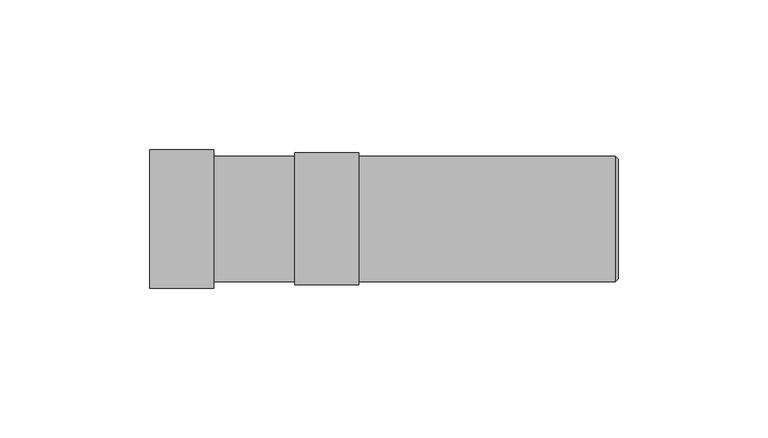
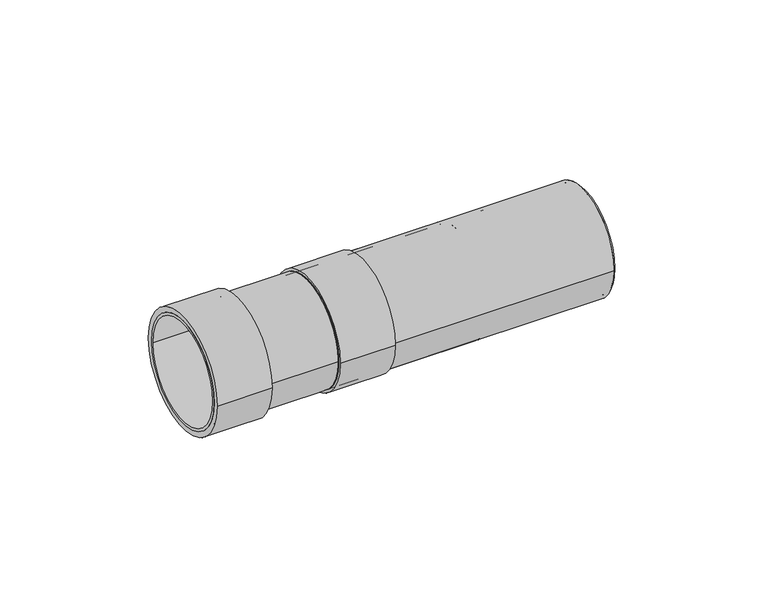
"""IFC4 building model written with IfcOpenShell, lengths in millimetres: pipe fitting geometry, Superdrain HTL-Long socket : Superdrain HTL-Long socket."""

import ifcopenshell
import ifcopenshell.guid

model = None  # the IFC model being written
_history = None  # IfcOwnerHistory: only IFC2X3 demands one
_inside = {}  # id of a spatial element -> (the spatial element, [elements in it])
_under = {}  # id of a project, library or spatial element -> (it, [spatial elements below it])
_declared = {}  # id of a project -> (the project, [libraries it declares])
_typed = {}  # id of a type object -> (the type object, [elements of that type])
_made_of = {}  # id of a material, layer set ... -> (it, [elements and type objects made of it])


def new_model(schema):
    """Start an empty IFC model of exactly this schema.

    Asked for "IFC4X3", IfcOpenShell would pick the latest addendum, in which some entities
    have other attributes; the version numbers below select the first issue.
    IFC2X3 requires an IfcOwnerHistory on every rooted entity: one is made here for all.
    """
    global model, _history
    if schema == "IFC4X3":
        model = ifcopenshell.file(schema_version=(4, 3, 0, 0))
    else:
        model = ifcopenshell.file(schema=schema)
    _inside.clear()
    _under.clear()
    _declared.clear()
    _typed.clear()
    _made_of.clear()
    _history = None
    if model.schema == "IFC2X3":
        org = make("IfcOrganization", Name="unknown")
        user = make(
            "IfcPersonAndOrganization",
            ThePerson=make("IfcPerson", FamilyName="unknown"),
            TheOrganization=org,
        )
        app = make(
            "IfcApplication",
            ApplicationDeveloper=org,
            Version="unknown",
            ApplicationFullName="unknown",
            ApplicationIdentifier="unknown",
        )
        _history = make(
            "IfcOwnerHistory",
            OwningUser=user,
            OwningApplication=app,
            ChangeAction="ADDED",
            CreationDate=0,
        )
    return model


def make(cls, **values):
    """One entity of the class cls with the attributes given. An attribute that is None is left unset."""
    return model.create_entity(
        cls, **{name: value for name, value in values.items() if value is not None}
    )


def rooted(cls, **values):
    """An entity with a GlobalId (a new one), such as an element, a storey or a relation."""
    return make(cls, GlobalId=ifcopenshell.guid.new(), OwnerHistory=_history, **values)


def si_unit(unit_type, name, prefix=None):
    """IfcSIUnit, for example si_unit("LENGTHUNIT", "METRE", prefix="MILLI")."""
    return make("IfcSIUnit", UnitType=unit_type, Prefix=prefix, Name=name)


def assignment(units):
    """IfcUnitAssignment: the units of a project."""
    return None if units is None else make("IfcUnitAssignment", Units=units)


def point(xyz):
    """IfcCartesianPoint."""
    return None if xyz is None else make("IfcCartesianPoint", Coordinates=xyz)


def direction(xyz):
    """IfcDirection."""
    return None if xyz is None else make("IfcDirection", DirectionRatios=xyz)


def frame(location, z_axis=None, x_axis=None):
    """IfcAxis2Placement3D, a coordinate frame: its origin and axes. An axis left out is left unset."""
    return make(
        "IfcAxis2Placement3D",
        Location=point(location),
        Axis=direction(z_axis),
        RefDirection=direction(x_axis),
    )


def frame_2d(location, x_axis=None):
    """IfcAxis2Placement2D, a coordinate frame in the plane: its origin and x axis."""
    return make(
        "IfcAxis2Placement2D", Location=point(location), RefDirection=direction(x_axis)
    )


def origin():
    """The frame at (0, 0, 0) with its axes left unset."""
    return frame((0.0, 0.0, 0.0))


def origin_2d():
    """The frame at (0, 0) in the plane with its x axis left unset."""
    return frame_2d((0.0, 0.0))


def place(relative_to, where):
    """IfcLocalPlacement: puts the frame where relative to a parent placement (None: the world)."""
    return make(
        "IfcLocalPlacement", PlacementRelTo=relative_to, RelativePlacement=where
    )


def context(
    kind, dimensions, precision=None, world=None, true_north=None, identifier=None
):
    """IfcGeometricRepresentationContext, for example the 3D "Model" context."""
    return make(
        "IfcGeometricRepresentationContext",
        ContextIdentifier=identifier,
        ContextType=kind,
        CoordinateSpaceDimension=dimensions,
        Precision=precision,
        WorldCoordinateSystem=world,
        TrueNorth=true_north,
    )


def project(units=None, contexts=None):
    """IfcProject with its units and contexts."""
    return rooted(
        "IfcProject",
        Name="project",
        RepresentationContexts=contexts,
        UnitsInContext=assignment(units),
    )


def spatial(cls, under=None, at=None, **own):
    """A site, building, storey or space (cls), placed at a placement, below another one or the project."""
    s = rooted(cls, ObjectPlacement=at, **own)
    if under is not None:
        _under.setdefault(under.id(), (under, []))[1].append(s)
    return s


def polyline(points):
    """IfcPolyline through the points."""
    return make("IfcPolyline", Points=[point(p) for p in points])


def circle_curve(where, radius):
    """IfcCircle in the frame where."""
    return make("IfcCircle", Position=where, Radius=radius)


def trimmed(basis, trim1, trim2, sense, master):
    """IfcTrimmedCurve: the piece of a basis curve between two trims."""
    return make(
        "IfcTrimmedCurve",
        BasisCurve=basis,
        Trim1=trim1,
        Trim2=trim2,
        SenseAgreement=sense,
        MasterRepresentation=master,
    )


def segment(curve, same_sense, transition):
    """IfcCompositeCurveSegment."""
    return make(
        "IfcCompositeCurveSegment",
        Transition=transition,
        SameSense=same_sense,
        ParentCurve=curve,
    )


def composite_curve(segments, self_intersect=None):
    """IfcCompositeCurve: segments joined end to end."""
    return make("IfcCompositeCurve", Segments=segments, SelfIntersect=self_intersect)


def outline(outer, holes=None, kind="AREA"):
    """IfcArbitraryClosedProfileDef: a profile drawn as a closed curve; with holes, ...WithVoids."""
    if holes is None:
        return make("IfcArbitraryClosedProfileDef", ProfileType=kind, OuterCurve=outer)
    return make(
        "IfcArbitraryProfileDefWithVoids",
        ProfileType=kind,
        OuterCurve=outer,
        InnerCurves=holes,
    )


def extrude(swept, where, along, depth):
    """IfcExtrudedAreaSolid: the profile swept, set in the frame where, extruded along a direction by depth."""
    return make(
        "IfcExtrudedAreaSolid",
        SweptArea=swept,
        Position=where,
        ExtrudedDirection=direction(along),
        Depth=depth,
    )


def shape(context_of_items, identifier, shape_type, items):
    """IfcShapeRepresentation: the items that make up one representation, for example the "Body"."""
    return make(
        "IfcShapeRepresentation",
        ContextOfItems=context_of_items,
        RepresentationIdentifier=identifier,
        RepresentationType=shape_type,
        Items=items,
    )


def source(mapping_origin, context_of_items, identifier, shape_type, items):
    """IfcRepresentationMap: a shape defined once, which mapped items show again and again."""
    return make(
        "IfcRepresentationMap",
        MappingOrigin=mapping_origin,
        MappedRepresentation=shape(context_of_items, identifier, shape_type, items),
    )


def transform(
    local_origin,
    x_axis=None,
    y_axis=None,
    z_axis=None,
    scale=None,
    scale2=None,
    scale3=None,
    uniform=True,
):
    """IfcCartesianTransformationOperator3D, or its non-uniform kind. x_axis, y_axis, z_axis: its Axis1, 2, 3."""
    if uniform:
        return make(
            "IfcCartesianTransformationOperator3D",
            Axis1=direction(x_axis),
            Axis2=direction(y_axis),
            LocalOrigin=point(local_origin),
            Scale=scale,
            Axis3=direction(z_axis),
        )
    return make(
        "IfcCartesianTransformationOperator3DnonUniform",
        Axis1=direction(x_axis),
        Axis2=direction(y_axis),
        LocalOrigin=point(local_origin),
        Scale=scale,
        Axis3=direction(z_axis),
        Scale2=scale2,
        Scale3=scale3,
    )


def mapped(mapping_source, mapping_target):
    """IfcMappedItem: shows the shape of a source again, moved by a transform."""
    return make(
        "IfcMappedItem", MappingSource=mapping_source, MappingTarget=mapping_target
    )


def made_of(thing, what):
    """Note that an element or type object is made of a material, layer set ...; save() writes the relation."""
    if what is not None:
        _made_of.setdefault(what.id(), (what, []))[1].append(thing)
    return thing


def element(
    cls,
    number,
    at=None,
    inside=None,
    cuts=None,
    type_object=None,
    material=None,
    context=None,
    identifier="Body",
    shape_type=None,
    held_by="IfcProductDefinitionShape",
    body=None,
    shapes=None,
    **own,
):
    """One element of the class cls, such as IfcWall. Its Tag is "e" and its number.

    at: its placement. inside: the storey or other place that contains it. cuts: it is an
    opening in that element (IfcRelVoidsElement). A single representation is given by context,
    identifier, shape_type and body (its items); several are given by shapes. held_by: the class
    of the entity that holds the representations. save() writes the other relations.
    """
    e = rooted(cls, Tag="e%d" % number, ObjectPlacement=at, **own)
    if body is not None:
        shapes = [shape(context, identifier, shape_type, body)]
    if shapes is not None:
        e.Representation = make(held_by, Representations=shapes)
    if inside is not None:
        _inside.setdefault(inside.id(), (inside, []))[1].append(e)
    if cuts is not None:
        rooted(
            "IfcRelVoidsElement", RelatingBuildingElement=cuts, RelatedOpeningElement=e
        )
    if type_object is not None:
        _typed.setdefault(type_object.id(), (type_object, []))[1].append(e)
    return made_of(e, material)


def aggregate(whole, parts):
    """IfcRelAggregates: a whole, such as a stair, and the parts it consists of."""
    return rooted("IfcRelAggregates", RelatingObject=whole, RelatedObjects=parts)


def save(model, path):
    """Write the relations noted so far, then the file.

    IfcRelAggregates (storeys below a building ...), IfcRelContainedInSpatialStructure (elements
    in a storey), IfcRelDefinesByType, IfcRelAssociatesMaterial and IfcRelDeclares: one each for
    every whole, place, type object, material and project.
    """
    for whole, parts in _under.values():
        aggregate(whole, parts)
    for where, things in _inside.values():
        rooted(
            "IfcRelContainedInSpatialStructure",
            RelatedElements=things,
            RelatingStructure=where,
        )
    for kind, things in _typed.values():
        rooted("IfcRelDefinesByType", RelatedObjects=things, RelatingType=kind)
    for what, things in _made_of.values():
        rooted("IfcRelAssociatesMaterial", RelatedObjects=things, RelatingMaterial=what)
    for by, libraries in _declared.values():
        rooted("IfcRelDeclares", RelatingContext=by, RelatedDefinitions=libraries)
    model.write(path)


def plane_surface(at):
    """IfcPlane: the flat surface through the origin of the frame at, square to its z axis."""
    return make("IfcPlane", Position=at)


def revolved_surface(curve, axis_point, axis_direction):
    """IfcSurfaceOfRevolution: the curve turned about the line through axis_point along axis_direction."""
    return make(
        "IfcSurfaceOfRevolution",
        SweptCurve=make("IfcArbitraryOpenProfileDef", ProfileType="CURVE", Curve=curve),
        AxisPosition=make("IfcAxis1Placement", Location=point(axis_point), Axis=direction(axis_direction)),
    )


def advanced_brep(points, edges, surfaces, faces):
    """IfcAdvancedBrep: a solid bounded by faces that lie on surfaces and meet in shared edges.

    An edge is (start, end): straight between two places in points (the first is 0);
    or (start, end, curve); or (start, end, curve, False) where it runs against its curve.
    A face is (place in surfaces, loops), or (place, loops, False) where it looks against
    its surface's normal. A loop lists edges by number (the first is 1), with a minus sign
    where the edge is run from its end to its start. The first loop is the outer one.
    """
    corners = [point(p) for p in points]
    vertices = [make("IfcVertexPoint", VertexGeometry=c) for c in corners]
    made = []
    for start, end, *more in edges:
        made.append(
            make(
                "IfcEdgeCurve",
                EdgeStart=vertices[start],
                EdgeEnd=vertices[end],
                EdgeGeometry=more[0] if more else make("IfcPolyline", Points=[corners[start], corners[end]]),
                SameSense=more[1] if len(more) > 1 else True,
            )
        )
    hull = []
    for where, loops, *sense in faces:
        bounds = []
        for j, loop in enumerate(loops):
            ring = [make("IfcOrientedEdge", EdgeElement=made[abs(k) - 1], Orientation=k > 0) for k in loop]
            bounds.append(
                make(
                    "IfcFaceOuterBound" if j == 0 else "IfcFaceBound",
                    Bound=make("IfcEdgeLoop", EdgeList=ring),
                    Orientation=True,
                )
            )
        hull.append(make("IfcAdvancedFace", Bounds=bounds, FaceSurface=surfaces[where], SameSense=sense[0] if sense else True))
    return make("IfcAdvancedBrep", Outer=make("IfcClosedShell", CfsFaces=hull))


def pipe_fitting_4485368d(model_context):
    return source(origin(), model_context, "Body", "SolidModel", [
        extrude(outline(composite_curve([segment(trimmed(circle_curve(origin_2d(), 21.0), [point((-21.0, 0.0))], [point((21.0, 0.0))], False, "CARTESIAN"), True, "CONTINUOUS"), segment(trimmed(circle_curve(origin_2d(), 21.0), [point((21.0, 0.0))], [point((-21.0, 0.0))], False, "CARTESIAN"), True, "CONTINUOUS")], self_intersect=False), holes=[composite_curve([segment(trimmed(circle_curve(origin_2d(), 20.0), [point((-20.0, 0.0))], [point((20.0, 0.0))], True, "CARTESIAN"), True, "CONTINUOUS"), segment(trimmed(circle_curve(origin_2d(), 20.0), [point((20.0, 0.0))], [point((-20.0, 0.0))], True, "CARTESIAN"), True, "CONTINUOUS")], self_intersect=False)]), frame((-62.0, 0.0, 0.0), z_axis=(1.0, 0.0, 0.0), x_axis=(0.0, 1.0, 0.0)), (0.0, 0.0, 1.0), 107.0),
        extrude(outline(composite_curve([segment(trimmed(circle_curve(origin_2d(), 22.05), [point((-22.05, 0.0))], [point((22.05, 0.0))], False, "CARTESIAN"), True, "CONTINUOUS"), segment(trimmed(circle_curve(origin_2d(), 22.05), [point((22.05, 0.0))], [point((-22.05, 0.0))], False, "CARTESIAN"), True, "CONTINUOUS")], self_intersect=False), holes=[composite_curve([segment(trimmed(circle_curve(origin_2d(), 20.0), [point((-20.0, 0.0))], [point((20.0, 0.0))], True, "CARTESIAN"), True, "CONTINUOUS"), segment(trimmed(circle_curve(origin_2d(), 20.0), [point((20.0, 0.0))], [point((-20.0, 0.0))], True, "CARTESIAN"), True, "CONTINUOUS")], self_intersect=False)]), frame((-62.0, 0.0, 0.0), z_axis=(1.0, 0.0, 0.0), x_axis=(0.0, 1.0, 0.0)), (0.0, 0.0, 1.0), 21.4),
        advanced_brep(
        [(46.0, -20.0, 0.0), (46.0, 20.0, 0.0), (45.0, -21.0, 0.0), (45.0, 21.0, 0.0)],
        [
            (0, 1, circle_curve(frame((46.0, 0.0, 0.0), z_axis=(1.0, 0.0, 0.0), x_axis=(0.0, -1.0, 0.0)), 20.0)),
            (1, 0, circle_curve(frame((46.0, 0.0, 0.0), z_axis=(1.0, 0.0, 0.0), x_axis=(0.0, 1.0, 0.0)), 20.0)),
            (2, 3, circle_curve(frame((45.0, 0.0, 0.0), z_axis=(-1.0, 0.0, 0.0), x_axis=(0.0, 1.0, 0.0)), 21.0)),
            (3, 2, circle_curve(frame((45.0, 0.0, 0.0), z_axis=(-1.0, 0.0, 0.0), x_axis=(0.0, -1.0, 0.0)), 21.0)),
            (3, 1),
            (0, 2),
        ],
        [
            plane_surface(frame((46.0, 0.0, 0.0), z_axis=(1.0, 0.0, 0.0), x_axis=(0.0, 0.0, -1.0))),
            plane_surface(frame((45.0, 0.0, 0.0), z_axis=(-1.0, 0.0, 0.0), x_axis=(0.0, 0.0, -1.0))),
            revolved_surface(polyline([(46.0, -20.0, 0.0), (45.0, -21.0, 0.0)]), (66.0, 0.0, 0.0), (-1.0, 0.0, 0.0)),
            revolved_surface(polyline([(46.0, 20.0, 0.0), (45.0, 21.0, 0.0)]), (66.0, 0.0, 0.0), (-1.0, 0.0, 0.0)),
        ],
        [
            (0, [[1, 2]]),
            (1, [[3, 4]]),
            (2, [[-4, 5, -1, 6]]),
            (3, [[-3, -6, -2, -5]]),
        ],
    ),
        extrude(outline(composite_curve([segment(trimmed(circle_curve(origin_2d(), 21.0), [point((-21.0, 0.0))], [point((21.0, 0.0))], False, "CARTESIAN"), True, "CONTINUOUS"), segment(trimmed(circle_curve(origin_2d(), 21.0), [point((21.0, 0.0))], [point((-21.0, 0.0))], False, "CARTESIAN"), True, "CONTINUOUS")], self_intersect=False), holes=[composite_curve([segment(trimmed(circle_curve(origin_2d(), 20.0), [point((-20.0, 0.0))], [point((20.0, 0.0))], True, "CARTESIAN"), True, "CONTINUOUS"), segment(trimmed(circle_curve(origin_2d(), 20.0), [point((20.0, 0.0))], [point((-20.0, 0.0))], True, "CARTESIAN"), True, "CONTINUOUS")], self_intersect=False)]), frame((-110.5, 0.0, 0.0), z_axis=(1.0, 0.0, 0.0), x_axis=(0.0, 1.0, 0.0)), (0.0, 0.0, 1.0), 107.0),
        extrude(outline(composite_curve([segment(trimmed(circle_curve(origin_2d(), 23.1), [point((-23.1, 0.0))], [point((23.1, 0.0))], False, "CARTESIAN"), True, "CONTINUOUS"), segment(trimmed(circle_curve(origin_2d(), 23.1), [point((23.1, 0.0))], [point((-23.1, 0.0))], False, "CARTESIAN"), True, "CONTINUOUS")], self_intersect=False), holes=[composite_curve([segment(trimmed(circle_curve(origin_2d(), 20.0), [point((-20.0, 0.0))], [point((20.0, 0.0))], True, "CARTESIAN"), True, "CONTINUOUS"), segment(trimmed(circle_curve(origin_2d(), 20.0), [point((20.0, 0.0))], [point((-20.0, 0.0))], True, "CARTESIAN"), True, "CONTINUOUS")], self_intersect=False)]), frame((-110.5, 0.0, 0.0), z_axis=(1.0, 0.0, 0.0), x_axis=(0.0, 1.0, 0.0)), (0.0, 0.0, 1.0), 21.4),
        advanced_brep(
        [(-2.5, -20.0, 0.0), (-2.5, 20.0, 0.0), (-3.5, -21.0, 0.0), (-3.5, 21.0, 0.0)],
        [
            (0, 1, circle_curve(frame((-2.5, 0.0, 0.0), z_axis=(1.0, 0.0, 0.0), x_axis=(0.0, -1.0, 0.0)), 20.0)),
            (1, 0, circle_curve(frame((-2.5, 0.0, 0.0), z_axis=(1.0, 0.0, 0.0), x_axis=(0.0, 1.0, 0.0)), 20.0)),
            (2, 3, circle_curve(frame((-3.5, 0.0, 0.0), z_axis=(-1.0, 0.0, 0.0), x_axis=(0.0, 1.0, 0.0)), 21.0)),
            (3, 2, circle_curve(frame((-3.5, 0.0, 0.0), z_axis=(-1.0, 0.0, 0.0), x_axis=(0.0, -1.0, 0.0)), 21.0)),
            (3, 1),
            (0, 2),
        ],
        [
            plane_surface(frame((-2.5, 0.0, 0.0), z_axis=(1.0, 0.0, 0.0), x_axis=(0.0, 0.0, -1.0))),
            plane_surface(frame((-3.5, 0.0, 0.0), z_axis=(-1.0, 0.0, 0.0), x_axis=(0.0, 0.0, -1.0))),
            revolved_surface(polyline([(-2.5, -20.0, 0.0), (-3.5, -21.0, 0.0)]), (17.5, 0.0, 0.0), (-1.0, 0.0, 0.0)),
            revolved_surface(polyline([(-2.5, 20.0, 0.0), (-3.5, 21.0, 0.0)]), (17.5, 0.0, 0.0), (-1.0, 0.0, 0.0)),
        ],
        [
            (0, [[1, 2]]),
            (1, [[3, 4]]),
            (2, [[-4, 5, -1, 6]]),
            (3, [[-3, -6, -2, -5]]),
        ],
    ),
        extrude(outline(composite_curve([segment(trimmed(circle_curve(origin_2d(), 20.0), [point((-20.0, 0.0))], [point((20.0, 0.0))], False, "CARTESIAN"), True, "CONTINUOUS"), segment(trimmed(circle_curve(origin_2d(), 20.0), [point((20.0, 0.0))], [point((-20.0, 0.0))], False, "CARTESIAN"), True, "CONTINUOUS")], self_intersect=False)), frame((-3.5, 0.0, 0.0), z_axis=(1.0, 0.0, 0.0), x_axis=(0.0, 1.0, 0.0)), (0.0, 0.0, 1.0), 48.5),
    ])


if __name__ == "__main__":
    model = new_model("IFC4")
    model_context = context("Model", 3, world=origin())
    ifc_project = project(units=[si_unit("LENGTHUNIT", "METRE", prefix="MILLI")], contexts=[model_context])
    site = spatial("IfcSite", under=ifc_project)
    building = spatial("IfcBuilding", under=site)
    placement = place(None, origin())
    pipe_fitting_shape = pipe_fitting_4485368d(model_context)
    element("IfcPipeFitting", 1, ObjectType="Superdrain HTL-Long socket : Superdrain HTL-Long socket", at=placement, inside=building, context=model_context, shape_type="MappedRepresentation", body=[
        mapped(pipe_fitting_shape, transform((0.0, 0.0, 0.0), x_axis=(1.0, 0.0, 0.0), y_axis=(0.0, 1.0, 0.0), z_axis=(0.0, 0.0, 1.0))),
    ])
    save(model, "model.ifc")
